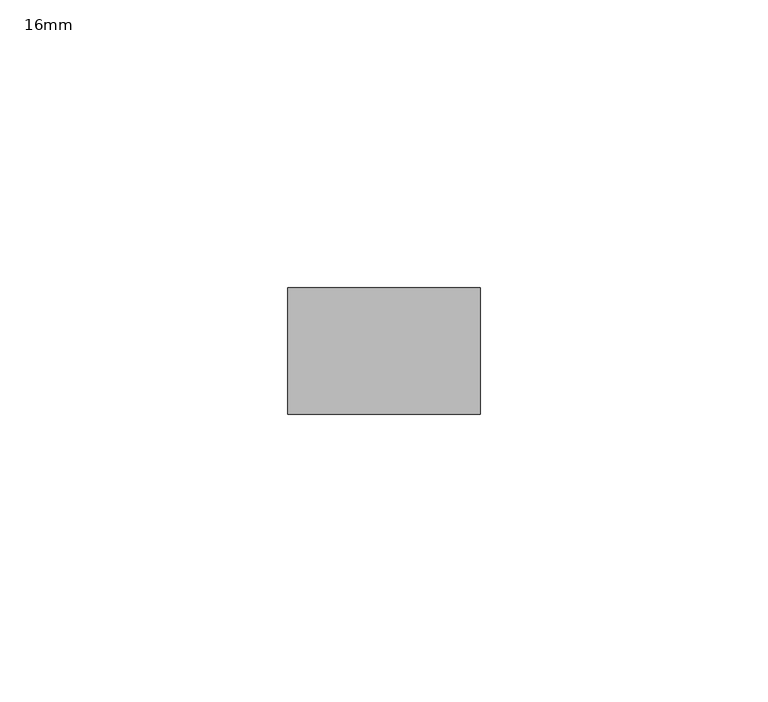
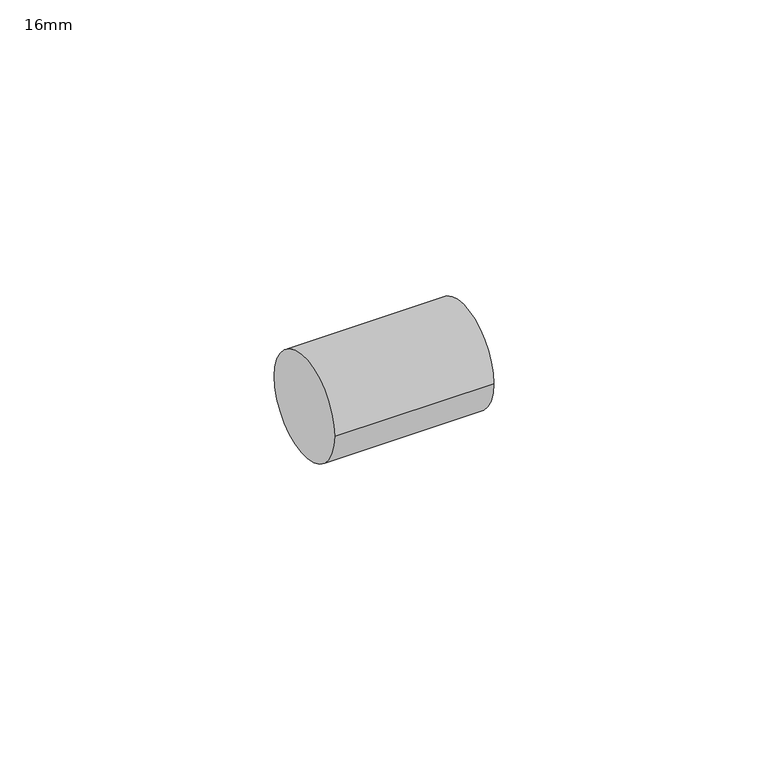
"""IFC4 building model written with IfcOpenShell, lengths in millimetres: pipe fitting geometry, PipeFitting_HTA_CPVC_Couplings : 16mm."""

from ifc_helpers import new_model, si_unit, point, frame, origin, origin_2d, place, context, project, spatial, circle_curve, trimmed, segment, composite_curve, outline, extrude, source, transform, mapped, element, save


def pipe_fitting_16mm_447902fc(model_context):
    return source(origin(), model_context, "Body", "SweptSolid", [
        extrude(outline(composite_curve([segment(trimmed(circle_curve(origin_2d(), 11.0), [point((-11.0, 0.0))], [point((11.0, 0.0))], False, "CARTESIAN"), True, "CONTINUOUS"), segment(trimmed(circle_curve(origin_2d(), 11.0), [point((11.0, 0.0))], [point((-11.0, 0.0))], False, "CARTESIAN"), True, "CONTINUOUS")], self_intersect=False)), frame((-16.75, 0.0, 0.0), z_axis=(1.0, 0.0, 0.0), x_axis=(0.0, 1.0, 0.0)), (0.0, 0.0, 1.0), 33.5),
    ])


if __name__ == "__main__":
    model = new_model("IFC4")
    model_context = context("Model", 3, world=origin())
    ifc_project = project(units=[si_unit("LENGTHUNIT", "METRE", prefix="MILLI")], contexts=[model_context])
    site = spatial("IfcSite", under=ifc_project)
    building = spatial("IfcBuilding", under=site)
    placement = place(None, origin())
    pipe_fitting_16mm_shape = pipe_fitting_16mm_447902fc(model_context)
    element("IfcPipeFitting", 1, ObjectType="PipeFitting_HTA_CPVC_Couplings : 16mm", at=placement, inside=building, context=model_context, shape_type="MappedRepresentation", body=[
        mapped(pipe_fitting_16mm_shape, transform((0.0, 0.0, 0.0), x_axis=(1.0, 0.0, 0.0), y_axis=(0.0, 1.0, 0.0), z_axis=(0.0, 0.0, 1.0))),
    ])
    save(model, "model.ifc")
